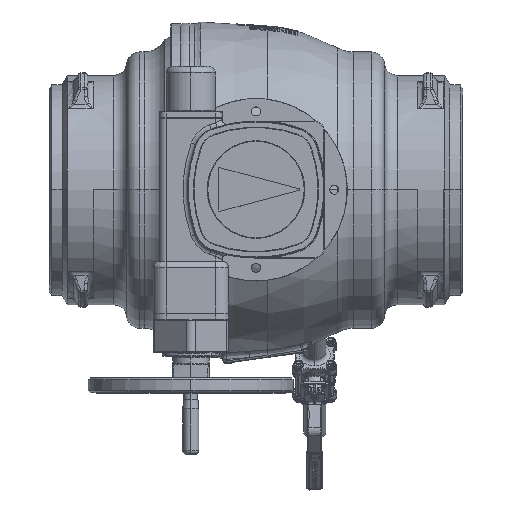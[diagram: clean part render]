
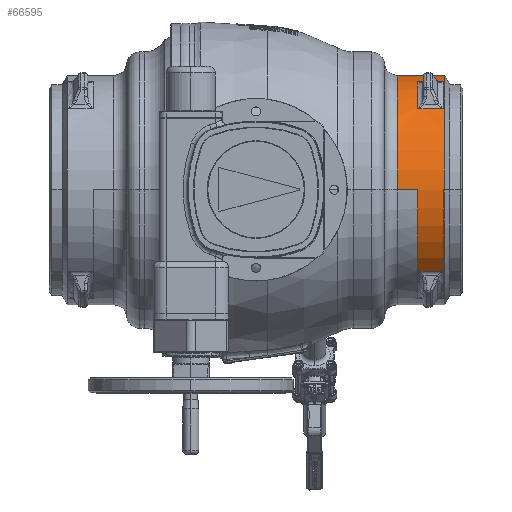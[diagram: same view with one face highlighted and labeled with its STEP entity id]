
A CAD part, top view. The second image highlights one B-rep face of the part: STEP entity #66595.
In plain terms, the highlighted cylindrical face has radius 176 mm (diameter 352 mm), a partial arc.
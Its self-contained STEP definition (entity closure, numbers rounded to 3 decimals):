
#13585=DIRECTION('',(-1.,0.,0.));
#13586=VECTOR('',#13585,2.115);
#13587=CARTESIAN_POINT('',(289.388,0.,-176.));
#13588=LINE('',#13587,#13586);
#13593=DIRECTION('',(-1.,0.,0.));
#13594=VECTOR('',#13593,31.5);
#13595=CARTESIAN_POINT('',(248.5,0.,-176.));
#13596=LINE('',#13595,#13594);
#13602=DIRECTION('',(-1.,0.,0.));
#13603=VECTOR('',#13602,31.5);
#13604=CARTESIAN_POINT('',(248.5,0.,176.));
#13605=LINE('',#13604,#13603);
#13606=CARTESIAN_POINT('',(248.5,0.,0.));
#13607=DIRECTION('',(-1.,0.,0.));
#13608=DIRECTION('',(0.,-0.71,0.704));
#13609=AXIS2_PLACEMENT_3D('',#13606,#13607,#13608);
#13615=CARTESIAN_POINT('',(287.274,0.,0.));
#13616=DIRECTION('',(1.,0.,0.));
#13617=DIRECTION('',(0.,0.,1.));
#13618=AXIS2_PLACEMENT_3D('',#13615,#13616,#13617);
#13620=DIRECTION('',(-1.,0.,0.));
#13621=VECTOR('',#13620,2.115);
#13622=CARTESIAN_POINT('',(289.388,0.,176.));
#13623=LINE('',#13622,#13621);
#13632=CARTESIAN_POINT('',(289.388,0.,0.));
#13633=DIRECTION('',(-1.,0.,0.));
#13634=DIRECTION('',(0.,0.,1.));
#13635=AXIS2_PLACEMENT_3D('',#13632,#13633,#13634);
#13637=DIRECTION('',(-1.,0.,0.));
#13638=VECTOR('',#13637,38.774);
#13639=CARTESIAN_POINT('',(287.274,-124.972,
123.928));
#13640=LINE('',#13639,#13638);
#13641=CARTESIAN_POINT('',(217.,0.,0.));
#13642=DIRECTION('',(1.,0.,0.));
#13643=DIRECTION('',(0.,0.,-1.));
#13644=AXIS2_PLACEMENT_3D('',#13641,#13642,#13643);
#13646=DIRECTION('',(-1.,0.,0.));
#13647=VECTOR('',#13646,38.774);
#13648=CARTESIAN_POINT('',(287.274,34.142,
-172.657));
#13649=LINE('',#13648,#13647);
#13650=DIRECTION('',(-1.,0.,0.));
#13651=VECTOR('',#13650,38.774);
#13652=CARTESIAN_POINT('',(287.274,124.972,123.928));
#13653=LINE('',#13652,#13651);
#13654=DIRECTION('',(-1.,0.,0.));
#13655=VECTOR('',#13654,38.774);
#13656=CARTESIAN_POINT('',(287.274,166.596,56.76));
#13657=LINE('',#13656,#13655);
#14249=CARTESIAN_POINT('',(248.5,34.142,-172.657));
#14251=CARTESIAN_POINT('',(248.5,0.,0.));
#14252=DIRECTION('',(-1.,0.,0.));
#14253=DIRECTION('',(0.,0.194,-0.981));
#14254=AXIS2_PLACEMENT_3D('',#14251,#14252,#14253);
#14571=CARTESIAN_POINT('',(287.274,0.,0.));
#14572=DIRECTION('',(1.,0.,0.));
#14573=DIRECTION('',(0.,0.,-1.));
#14574=AXIS2_PLACEMENT_3D('',#14571,#14572,#14573);
#14632=CARTESIAN_POINT('',(287.274,34.142,
-172.657));
#14821=CARTESIAN_POINT('',(287.274,124.972,123.928));
#14894=CARTESIAN_POINT('',(248.5,124.972,123.928));
#14896=CARTESIAN_POINT('',(248.5,0.,0.));
#14897=DIRECTION('',(-1.,0.,0.));
#14898=DIRECTION('',(0.,0.71,0.704));
#14899=AXIS2_PLACEMENT_3D('',#14896,#14897,#14898);
#15026=CARTESIAN_POINT('',(248.5,166.596,56.76));
#15103=CARTESIAN_POINT('',(287.274,166.596,56.76));
#15105=CARTESIAN_POINT('',(287.274,0.,0.));
#15106=DIRECTION('',(1.,0.,0.));
#15107=DIRECTION('',(0.,0.947,0.323));
#15108=AXIS2_PLACEMENT_3D('',#15105,#15106,#15107);
#33061=CARTESIAN_POINT('',(217.,0.,176.));
#33062=CARTESIAN_POINT('',(217.,0.,-176.));
#33063=VERTEX_POINT('',#33061);
#33064=VERTEX_POINT('',#33062);
#33222=CARTESIAN_POINT('',(289.388,0.,176.));
#33223=CARTESIAN_POINT('',(289.388,0.,-176.));
#33224=VERTEX_POINT('',#33222);
#33225=VERTEX_POINT('',#33223);
#34258=CARTESIAN_POINT('',(248.5,0.,-176.));
#34259=VERTEX_POINT('',#34258);
#34260=CARTESIAN_POINT('',(248.5,0.,176.));
#34261=VERTEX_POINT('',#34260);
#34262=CARTESIAN_POINT('',(248.5,-124.972,123.928));
#34263=VERTEX_POINT('',#34262);
#34264=CARTESIAN_POINT('',(287.274,0.,176.));
#34265=CARTESIAN_POINT('',(287.274,-124.972,
123.928));
#34266=VERTEX_POINT('',#34264);
#34267=VERTEX_POINT('',#34265);
#34269=VERTEX_POINT('',#15103);
#34289=VERTEX_POINT('',#15026);
#34291=VERTEX_POINT('',#14894);
#34311=VERTEX_POINT('',#14821);
#34355=VERTEX_POINT('',#14249);
#34375=VERTEX_POINT('',#14632);
#34398=CARTESIAN_POINT('',(287.274,0.,-176.));
#34399=VERTEX_POINT('',#34398);
#66562=CARTESIAN_POINT('',(343.075,0.,0.));
#66563=DIRECTION('',(-1.,0.,0.));
#66564=DIRECTION('',(0.,0.,1.));
#66565=AXIS2_PLACEMENT_3D('',#66562,#66563,#66564);
#66566=CYLINDRICAL_SURFACE('',#66565,176.);
#66567=ORIENTED_EDGE('',*,*,#66553,.F.);
#66568=ORIENTED_EDGE('',*,*,#66528,.T.);
#66569=ORIENTED_EDGE('',*,*,#66526,.T.);
#66571=ORIENTED_EDGE('',*,*,#66570,.T.);
#66572=ORIENTED_EDGE('',*,*,#66518,.T.);
#66573=ORIENTED_EDGE('',*,*,#66516,.T.);
#66574=ORIENTED_EDGE('',*,*,#66478,.F.);
#66575=ORIENTED_EDGE('',*,*,#66513,.F.);
#66577=ORIENTED_EDGE('',*,*,#66576,.F.);
#66579=ORIENTED_EDGE('',*,*,#66578,.F.);
#66581=ORIENTED_EDGE('',*,*,#66580,.F.);
#66582=ORIENTED_EDGE('',*,*,#66505,.F.);
#66583=EDGE_LOOP('',(#66567,#66568,#66569,#66571,#66572,#66573,#66574,#66575,
#66577,#66579,#66581,#66582));
#66584=FACE_OUTER_BOUND('',#66583,.F.);
#66586=ORIENTED_EDGE('',*,*,#66585,.F.);
#66588=ORIENTED_EDGE('',*,*,#66587,.F.);
#66590=ORIENTED_EDGE('',*,*,#66589,.T.);
#66592=ORIENTED_EDGE('',*,*,#66591,.F.);
#66593=EDGE_LOOP('',(#66586,#66588,#66590,#66592));
#66594=FACE_BOUND('',#66593,.F.);
#66595=ADVANCED_FACE('',(#66584,#66594),#66566,.T.);
#13610=CIRCLE('',#13609,176.);
#13619=CIRCLE('',#13618,176.);
#13636=CIRCLE('',#13635,176.);
#13645=CIRCLE('',#13644,176.);
#14255=CIRCLE('',#14254,176.);
#14575=CIRCLE('',#14574,176.);
#14900=CIRCLE('',#14899,176.);
#15109=CIRCLE('',#15108,176.);
#66478=EDGE_CURVE('',#33064,#33063,#13645,.T.);
#66505=EDGE_CURVE('',#33225,#34399,#13588,.T.);
#66513=EDGE_CURVE('',#34259,#33064,#13596,.T.);
#66516=EDGE_CURVE('',#34261,#33063,#13605,.T.);
#66518=EDGE_CURVE('',#34263,#34261,#13610,.T.);
#66526=EDGE_CURVE('',#34266,#34267,#13619,.T.);
#66528=EDGE_CURVE('',#33224,#34266,#13623,.T.);
#66553=EDGE_CURVE('',#33224,#33225,#13636,.T.);
#66570=EDGE_CURVE('',#34267,#34263,#13640,.T.);
#66576=EDGE_CURVE('',#34355,#34259,#14255,.T.);
#66578=EDGE_CURVE('',#34375,#34355,#13649,.T.);
#66580=EDGE_CURVE('',#34399,#34375,#14575,.T.);
#66585=EDGE_CURVE('',#34311,#34291,#13653,.T.);
#66587=EDGE_CURVE('',#34269,#34311,#15109,.T.);
#66589=EDGE_CURVE('',#34269,#34289,#13657,.T.);
#66591=EDGE_CURVE('',#34291,#34289,#14900,.T.);
